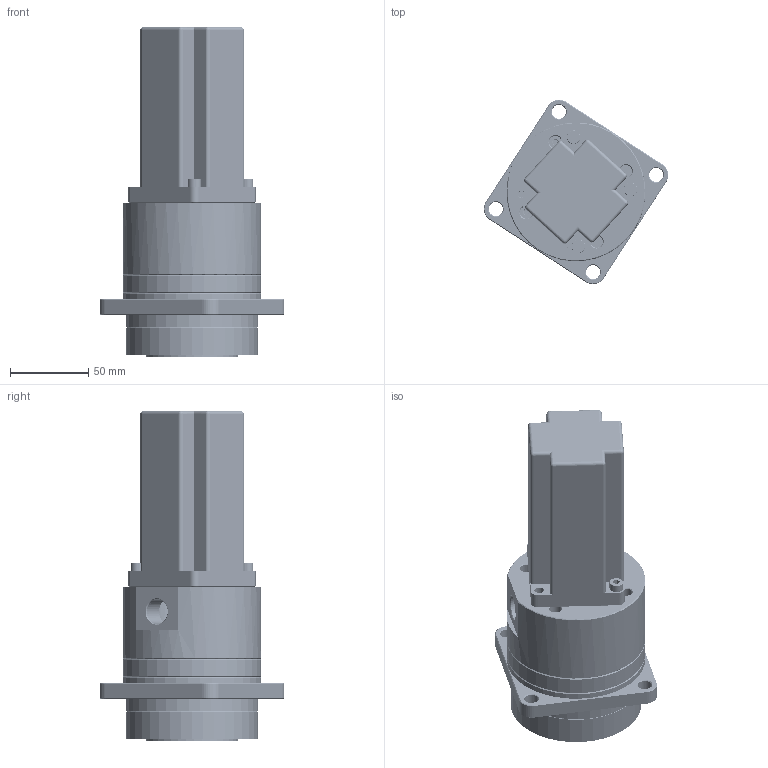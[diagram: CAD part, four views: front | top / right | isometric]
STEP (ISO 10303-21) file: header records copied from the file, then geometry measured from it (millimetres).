
FILE_DESCRIPTION(/* description */ (''),/* implementation_level */ '2;1');
FILE_NAME(/* name */ 'PG20-60伺服电机安装方案.stp',/* time_stamp */ '2022-08-04T17:42:50+08:00',/* author */ (''),/* organization */ (''),/* preprocessor_version */ 'ST-DEVELOPER v16',/* originating_system */ 'SIEMENS PLM Software NX 10.0',/* authorisation */ '');
FILE_SCHEMA (('CONFIG_CONTROL_DESIGN'));
Products named in the file (1): 11
Bounding box: 118.34 x 118.34 x 211.5 mm (x, y, z)
Volume: 804489.7 mm3; surface area: 207614 mm2
Topology: 48 solids, 49 shells, 1279 faces, 3073 edges, 1980 vertices
Faces by surface type: plane 514, cylinder 378, cone 183, bspline 176, sphere 20, torus 8
Full cylindrical faces by diameter (mm): 2.5 x2, 4.5 x25, 5 x41, 5.5 x9, 5.68 x1, 6 x4, 7 x7, 7.5 x1, 8 x12, 8.5 x7, 8.72 x3, 9 x4, 10 x1, 14 x6, 16 x1, 24 x2, 25 x3, 28 x2, 29 x1, 30 x3, 32 x2, 34 x1, 34.5 x1, 35.56 x1, 36 x1, 37 x1, 38 x1, 38.2 x2, 39 x2, 39.7 x1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
Entity records: 378146 total; most frequent: CARTESIAN_POINT 352458, ORIENTED_EDGE 5036, DIRECTION 4653, EDGE_CURVE 2518, AXIS2_PLACEMENT_3D 1874, VERTEX_POINT 1828, EDGE_LOOP 1827, ADVANCED_FACE 1246
